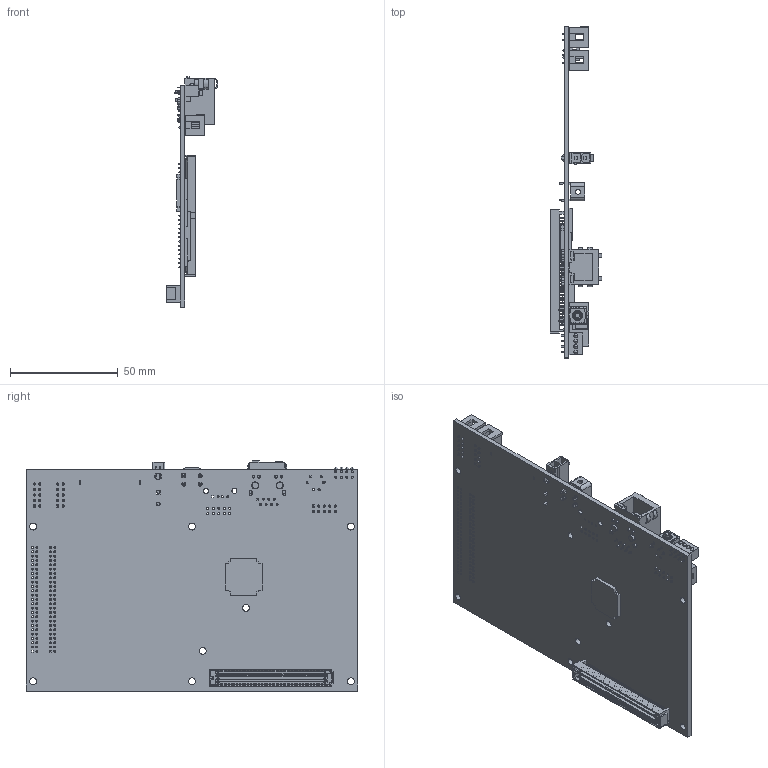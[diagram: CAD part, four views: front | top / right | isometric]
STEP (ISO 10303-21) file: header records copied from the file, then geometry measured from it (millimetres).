
FILE_DESCRIPTION((''),'2;1');
FILE_NAME('CU_SBRIO-9623','2012-03-13T',('jpfaff'),(''),'PRO/ENGINEER BY PARAMETRIC TECHNOLOGY CORPORATION, 2010230','PRO/ENGINEER BY PARAMETRIC TECHNOLOGY CORPORATION, 2010230','');
FILE_SCHEMA(('CONFIG_CONTROL_DESIGN'));
Products named in the file (1): CU_SBRIO-9623
Bounding box: 23.95 x 153.67 x 106.61 mm (x, y, z)
Volume: 45204.9 mm3; surface area: 48554.8 mm2
Topology: 5 solids, 5 shells, 6460 faces, 19548 edges, 12486 vertices
Faces by surface type: plane 5349, cylinder 1054, sphere 34, torus 9, bspline 8, cone 6
Entity records: 218231 total; most frequent: CARTESIAN_POINT 39715, ORIENTED_EDGE 39020, DIRECTION 34566, EDGE_CURVE 19510, VECTOR 17218, LINE 17218, VERTEX_POINT 12486, AXIS2_PLACEMENT_3D 8674
